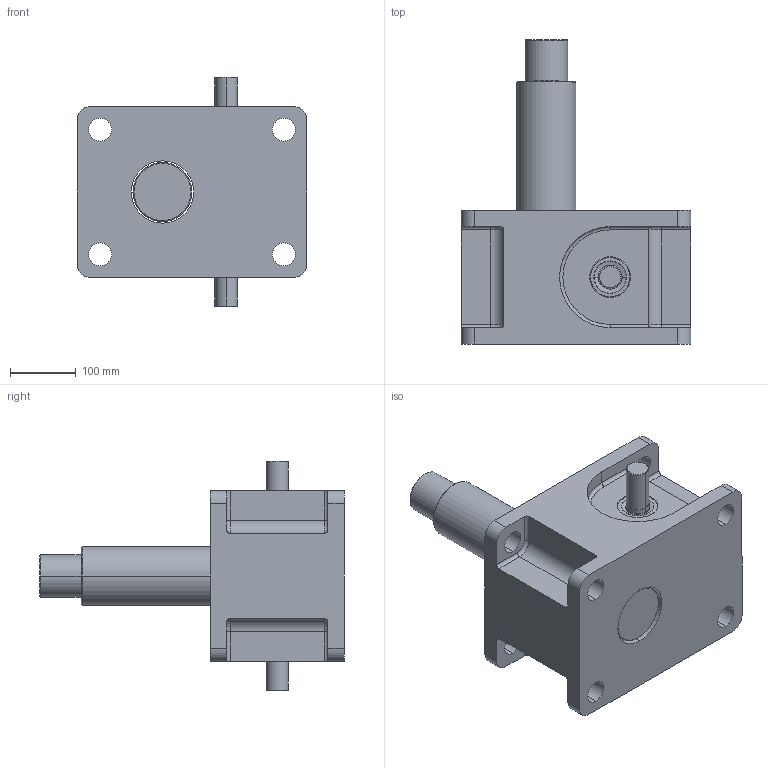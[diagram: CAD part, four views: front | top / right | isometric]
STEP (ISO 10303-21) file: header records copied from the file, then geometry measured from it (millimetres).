
FILE_DESCRIPTION (( 'STEP AP203' ), '1' );
FILE_NAME ('LMR25_30.STEP', '2008-07-31T00:20:15', ( 'Cliente' ), ( 'Home' ), 'SwSTEP 2.0', 'SolidWorks 2008', '' );
FILE_SCHEMA (( 'CONFIG_CONTROL_DESIGN' ));
Length unit declared in the file: millimetre
Products named in the file (6): EspelharTaper Roller Bearing_DIN_DIN 720 - 30206 - 16,SI,NC,16; LMR25_30; carcaça_Valor predeterminado; fuso_Valor predeterminado; sem_fim_Valor predeterminado; Taper Roller Bearing_DIN_DIN 720 - 30206 - 16,SI,NC,16
Assembly tree (5 placements, depth 2):
  LMR25_30
    sem_fim_Valor predeterminado
    Taper Roller Bearing_DIN_DIN 720 - 30206 - 16,SI,NC,16
    fuso_Valor predeterminado
    carcaça_Valor predeterminado
    EspelharTaper Roller Bearing_DIN_DIN 720 - 30206 - 16,SI,NC,16
Bounding box: 350 x 464 x 350 mm (x, y, z)
Volume: 16215572.1 mm3; surface area: 767927.9 mm2
Topology: 5 solids, 5 shells, 197 faces, 453 edges, 277 vertices
Faces by surface type: cylinder 85, cone 50, plane 43, torus 19
Entity records: 6275 total; most frequent: DIRECTION 1107, CARTESIAN_POINT 947, ORIENTED_EDGE 906, EDGE_CURVE 453, AXIS2_PLACEMENT_3D 453, VERTEX_POINT 277, CIRCLE 248, EDGE_LOOP 232
